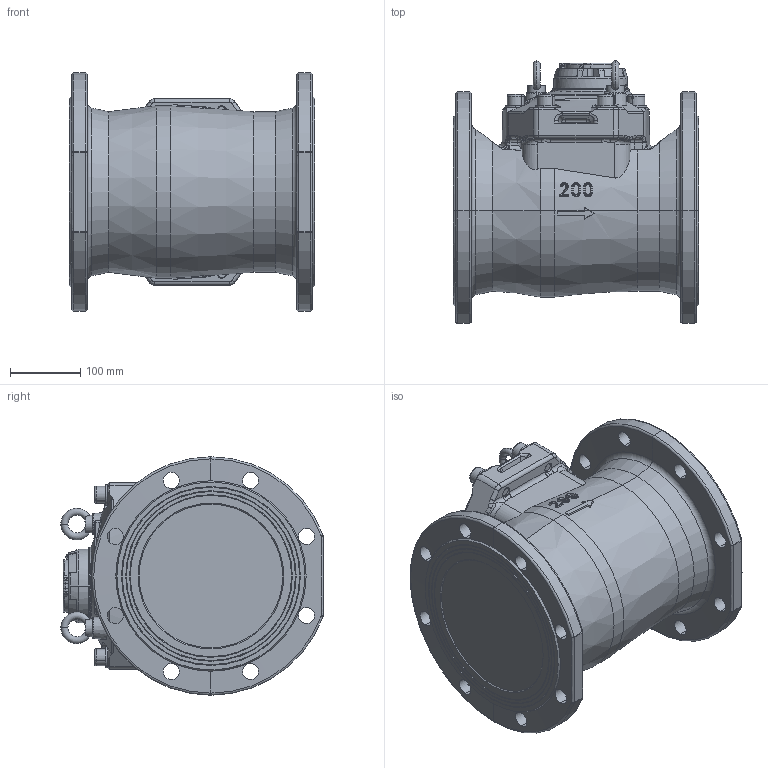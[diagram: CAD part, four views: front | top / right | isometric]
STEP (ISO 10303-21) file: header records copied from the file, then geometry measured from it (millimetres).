
FILE_DESCRIPTION (( 'STEP AP214' ), '1' );
FILE_NAME ('MWN200 IP65 NKO.STEP', '2025-07-09T13:11:46', ( '' ), ( '' ), 'SwSTEP 2.0', 'SolidWorks 2019', '' );
FILE_SCHEMA (( 'AUTOMOTIVE_DESIGN' ));
Length unit declared in the file: millimetre
Products named in the file (1): MWN200 IP65 NKO
Bounding box: 350 x 374 x 340 mm (x, y, z)
Volume: 19859097.8 mm3; surface area: 890616.5 mm2
Topology: 18 solids, 43 shells, 1775 faces, 4438 edges, 2745 vertices
Faces by surface type: plane 586, cylinder 490, bspline 303, cone 253, torus 107, sphere 36
Entity records: 109321 total; most frequent: CARTESIAN_POINT 50762, ORIENTED_EDGE 8720, DIRECTION 7461, EDGE_CURVE 4360, AXIS2_PLACEMENT_3D 2861, VERTEX_POINT 2738, EDGE_LOOP 1936, FACE_OUTER_BOUND 1775
